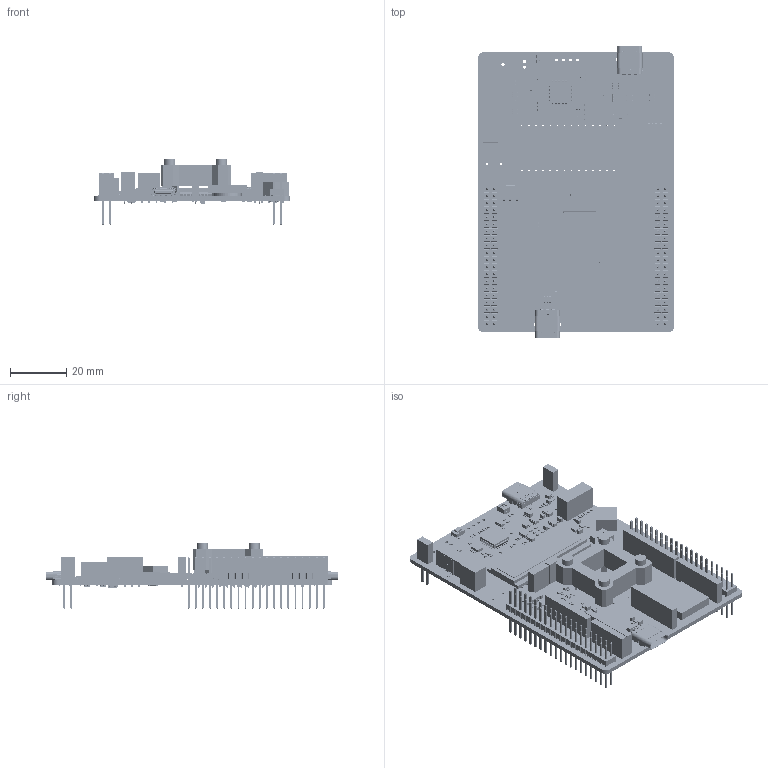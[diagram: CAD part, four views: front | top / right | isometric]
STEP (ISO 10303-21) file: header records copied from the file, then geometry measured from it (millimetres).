
FILE_DESCRIPTION(('Open CASCADE Model'),'2;1');
FILE_NAME('Open CASCADE Shape Model','2023-11-21T17:09:56',('Author'),( 'Open CASCADE'),'Open CASCADE STEP processor 6.8','Open CASCADE 6.8' ,'Unknown');
FILE_SCHEMA(('AUTOMOTIVE_DESIGN { 1 0 10303 214 1 1 1 1 }'));
Length unit declared in the file: millimetre
Products named in the file (462): PCB; Board; Open CASCADE STEP translator 6.8 1.1.1; SB24; R0603; 6657571536; Extruded; R71; R0402; 6657575696; R73; R72; SB15; SB2; JP6; TSW-103-07-F-S; _TSW-103-07-F-S_body; _T-1S6-07-TSW-1-07-3-S; 6942025792; JP5; TSW-102-07-G-S; _TSW-102-07-G-S_body; _T-1S6-07-TSW-1-07-2-S; 6682694192; CN12; SSW-108-01-G-S; _T1SSW-108-01-G-S; _P2SSW-108-01-G-S; 6682402112; CN13; U13; 0201; 6942027152; C45; C0603; 6657567296; CN14; c12401826; MSBR-3; MSBR-2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
Assembly tree (855 placements, depth 4):
  PCB
    Board
      Open CASCADE STEP translator 6.8 1.1.1
    SB24
      R0603
      6657571536
        Extruded
    R71
      R0402
      6657575696
        Extruded
    R73
      R0402
      6657575696
        Extruded
    R72
      R0402
      6657575696
        Extruded
    SB15
      R0603
      6657571536
        Extruded
    SB2
      R0603
      6657571536
        Extruded
    JP6
      TSW-103-07-F-S
        _TSW-103-07-F-S_body
        _T-1S6-07-TSW-1-07-3-S
      6942025792
        Extruded
    JP5
      TSW-102-07-G-S
        _TSW-102-07-G-S_body
        _T-1S6-07-TSW-1-07-2-S
      6682694192
        Extruded
    CN12
      SSW-108-01-G-S
        _T1SSW-108-01-G-S
        _P2SSW-108-01-G-S
      6682402112
        Extruded
    CN13
      SSW-108-01-G-S
        _T1SSW-108-01-G-S
        _P2SSW-108-01-G-S
      6682402112
        Extruded
    U13
      0201
      6942027152
        Extruded
    C45
      C0603
      6657567296
        Extruded
    CN14
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Bounding box: 70 x 104.44 x 23.36 mm (x, y, z)
Volume: 25958.3 mm3; surface area: 46442.7 mm2
Topology: 737 solids, 1673 shells, 44910 faces, 108980 edges, 64504 vertices
Faces by surface type: plane 22139, cylinder 11708, bspline 6359, sphere 3520, torus 740, revolution 280, cone 164
Full cylindrical faces by diameter (mm): 0.15 x2, 0.3 x3, 0.65 x2, 0.8 x4, 0.97 x2, 1 x137, 1.1 x52, 1.19 x2, 1.5 x2, 4 x4, 10 x1
Entity records: 414769 total; most frequent: CARTESIAN_POINT 80376, ORIENTED_EDGE 56663, DIRECTION 55051, EDGE_CURVE 29011, LINE 24443, VECTOR 24443, VERTEX_POINT 18935, AXIS2_PLACEMENT_3D 15300
